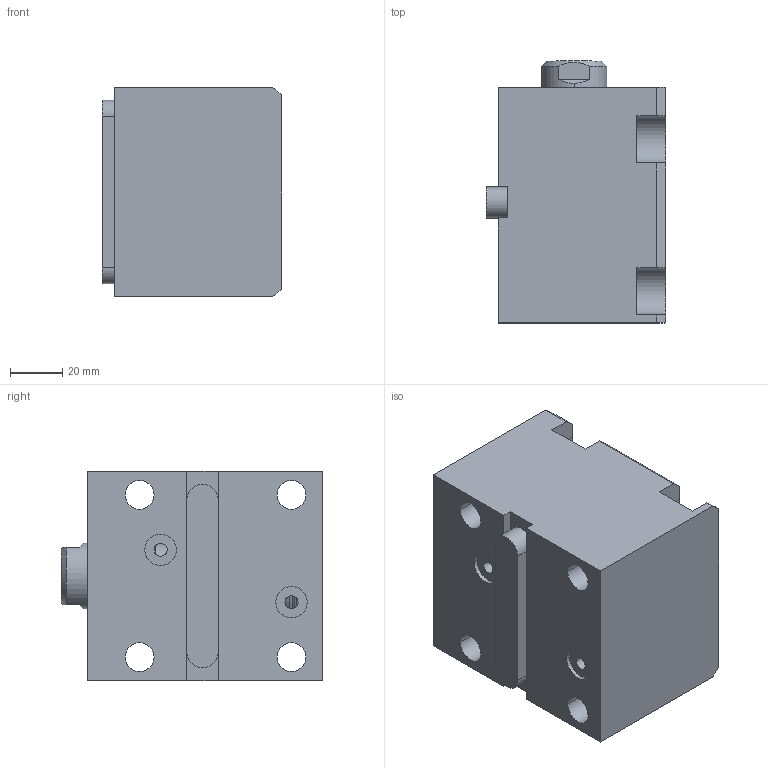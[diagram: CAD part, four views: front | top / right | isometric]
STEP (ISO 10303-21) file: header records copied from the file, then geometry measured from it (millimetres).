
FILE_DESCRIPTION (( 'STEP AP214' ), '1' );
FILE_NAME ('chtb-lam40x35n_asm.STEP', '2018-05-29T08:04:23', ( 'Windows' ), ( 'Microsoft' ), 'SwSTEP 2.0', 'SolidWorks 2015', '' );
FILE_SCHEMA (( 'AUTOMOTIVE_DESIGN' ));
Length unit declared in the file: millimetre
Products named in the file (5): CHTB-SD40QG; CHTB-LAM40X35NBT; CHTB-LA40PJ; chtb-lam40x35n_asm; CHTB-SD40X35NHSG
Assembly tree (4 placements, depth 2):
  chtb-lam40x35n_asm
    CHTB-LA40PJ
    CHTB-LAM40X35NBT
    CHTB-SD40QG
    CHTB-SD40X35NHSG
Bounding box: 68.5 x 100 x 80 mm (x, y, z)
Volume: 398418.4 mm3; surface area: 81321.1 mm2
Topology: 4 solids, 4 shells, 154 faces, 418 edges, 278 vertices
Faces by surface type: cylinder 73, plane 46, bspline 14, torus 12, cone 9
Entity records: 10092 total; most frequent: CARTESIAN_POINT 6074, ORIENTED_EDGE 824, DIRECTION 755, EDGE_CURVE 412, AXIS2_PLACEMENT_3D 300, VERTEX_POINT 278, EDGE_LOOP 180, LINE 155
